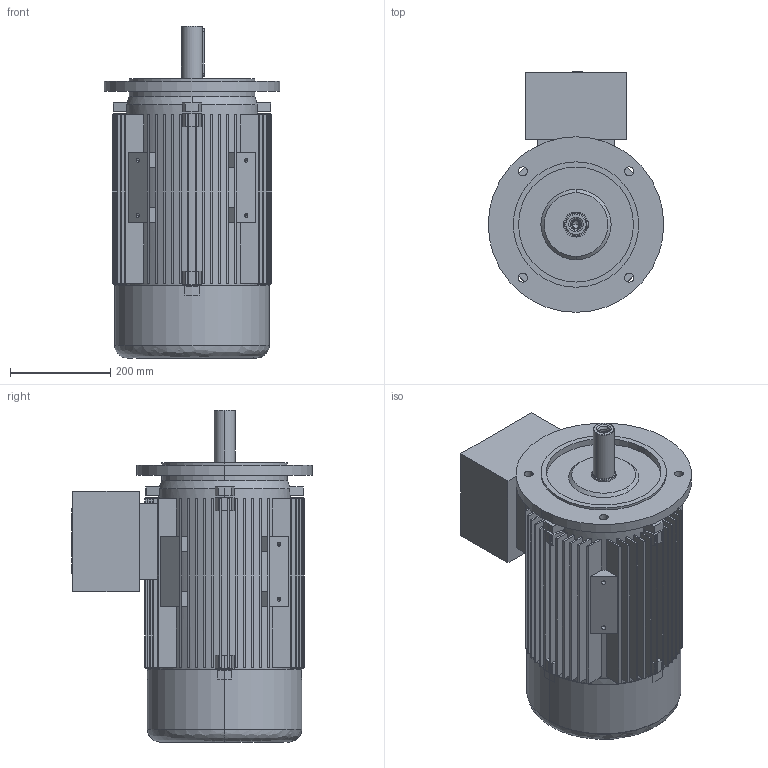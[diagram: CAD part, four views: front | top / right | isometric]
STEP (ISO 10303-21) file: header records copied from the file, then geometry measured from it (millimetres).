
FILE_DESCRIPTION (( 'STEP AP203' ), '1' );
FILE_NAME ('20.18422_B 7AT 160M&L B5 STANDK.STEP', '2018-04-24T11:29:44', ( '' ), ( '' ), 'SwSTEP 2.0', 'SolidWorks 2017', '' );
FILE_SCHEMA (( 'CONFIG_CONTROL_DESIGN' ));
Length unit declared in the file: millimetre
Products named in the file (1): 20.18422_B 7AT 160M&L B5 STANDK
Bounding box: 350 x 480 x 662 mm (x, y, z)
Volume: 16139236.3 mm3; surface area: 2665943.7 mm2
Topology: 5 solids, 5 shells, 698 faces, 1894 edges, 1249 vertices
Faces by surface type: plane 492, cylinder 163, cone 30, bspline 13
Entity records: 22812 total; most frequent: CARTESIAN_POINT 4717, DIRECTION 3804, ORIENTED_EDGE 3768, EDGE_CURVE 1884, AXIS2_PLACEMENT_3D 1276, VECTOR 1252, LINE 1252, VERTEX_POINT 1249
